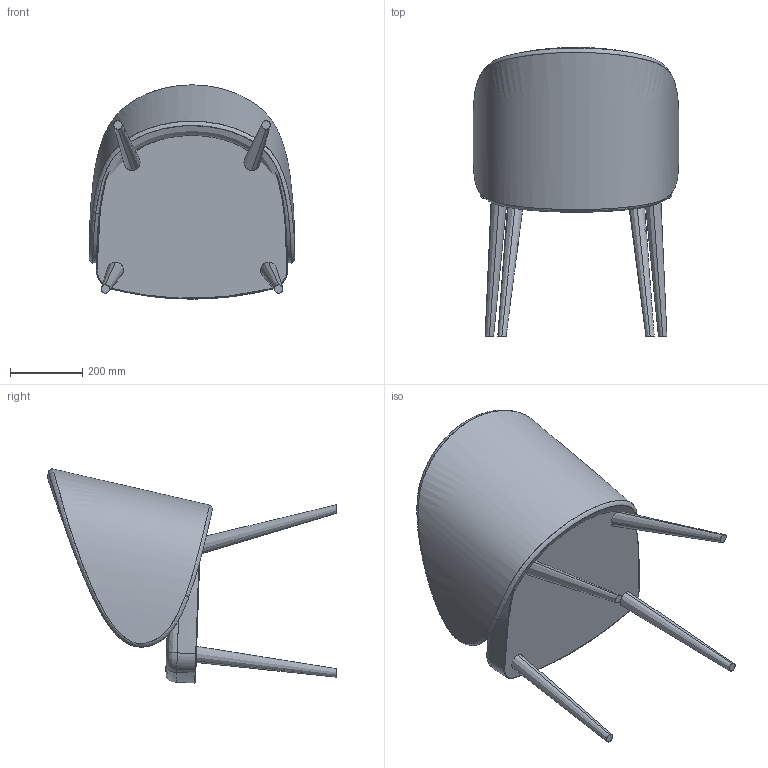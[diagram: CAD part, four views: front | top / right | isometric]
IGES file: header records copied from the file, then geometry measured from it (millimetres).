
Start section: SolidWorks IGES file using analytic representation for surfaces
Global section: file name: C:\Users\mateus\Desktop\SAT passar para dwg\Reboleira\Lana\Cadeirões\A974C\Cadeirão_A974C.IGS; native system: SolidWorks 2018; preprocessor: SolidWorks 2018; author: Mateus; date: 180801.142059; units: millimetre
Bounding box: 569.57 x 799.36 x 593.01 mm (x, y, z)
Surface area: 1620619.8 mm2 (no closed solid volume)
Topology: 0 solids, 0 shells, 89 faces, 1574 edges, 1571 vertices
Faces by surface type: bspline 61, revolution 28
